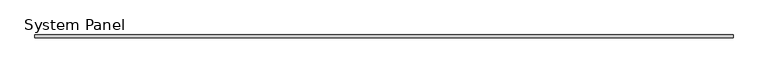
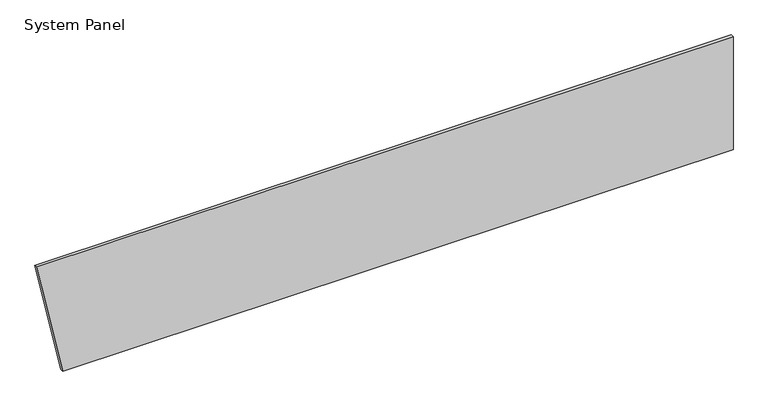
"""IFC4 building model written with IfcOpenShell, lengths in millimetres: plate geometry, System Panel : Purline 25mm Horizontal - Plain RHEA - PUR."""

from ifc_helpers import new_model, si_unit, frame, origin, place, context, project, spatial, polyline, outline, extrude, source, transform, mapped, element, save


def system_panel_6abbdd9c(model_context):
    return source(origin(), model_context, "Body", "SweptSolid", [
        extrude(outline(polyline([(0.0, -2698.6965258), (0.0, 2916.0895773), (1000.0, 2916.0895773), (1000.0, -2916.0895773), (0.0, -2698.6965258)])), frame((0.0, -25.0, 0.0), z_axis=(0.0, 1.0, 0.0), x_axis=(0.0, 0.0, 1.0)), (0.0, 0.0, 1.0), 25.0),
    ])


if __name__ == "__main__":
    model = new_model("IFC4")
    model_context = context("Model", 3, world=origin())
    ifc_project = project(units=[si_unit("LENGTHUNIT", "METRE", prefix="MILLI")], contexts=[model_context])
    site = spatial("IfcSite", under=ifc_project)
    building = spatial("IfcBuilding", under=site)
    placement = place(None, origin())
    system_panel_shape = system_panel_6abbdd9c(model_context)
    element("IfcPlate", 1, ObjectType="System Panel : Purline 25mm Horizontal - Plain RHEA - PUR", at=placement, inside=building, context=model_context, shape_type="MappedRepresentation", body=[
        mapped(system_panel_shape, transform((0.0, 0.0, 0.0), x_axis=(1.0, 0.0, 0.0), y_axis=(0.0, 1.0, 0.0), z_axis=(0.0, 0.0, 1.0))),
    ])
    save(model, "model.ifc")
